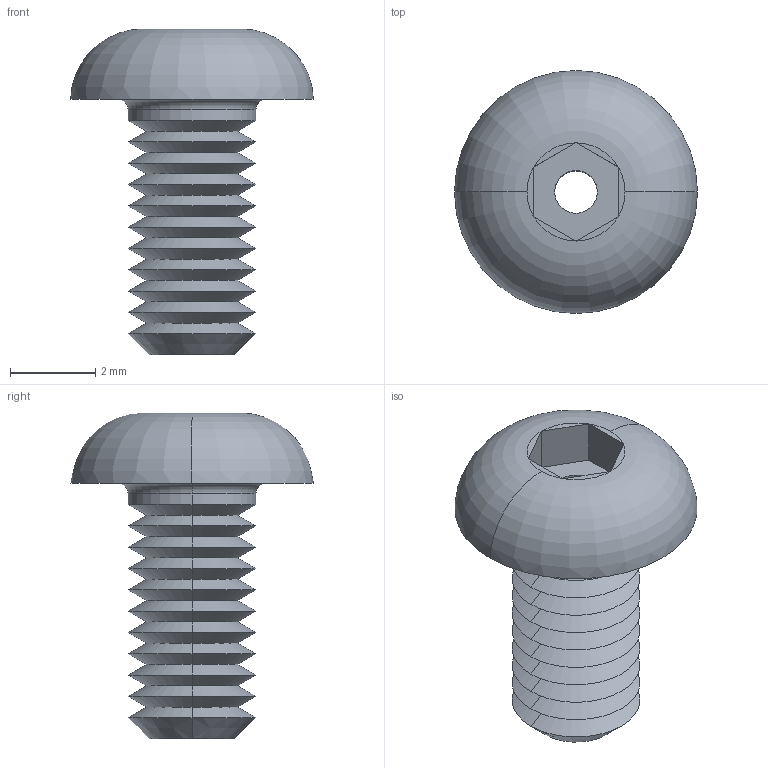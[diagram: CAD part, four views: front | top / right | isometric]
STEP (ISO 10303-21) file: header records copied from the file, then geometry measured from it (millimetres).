
FILE_DESCRIPTION (( 'STEP AP203' ), '1' );
FILE_NAME ('P0094.030-006-A2.step', '2019-07-12T16:51:05', ( '' ), ( '' ), 'SwSTEP 2.0', 'SolidWorks 2017', '' );
FILE_SCHEMA (( 'CONFIG_CONTROL_DESIGN' ));
Length unit declared in the file: millimetre
Products named in the file (1): P0094.030-006-A2
Bounding box: 5.7 x 5.7 x 7.65 mm (x, y, z)
Volume: 56 mm3; surface area: 178.6 mm2
Topology: 1 solids, 1 shells, 65 faces, 142 edges, 80 vertices
Faces by surface type: cone 42, plane 15, cylinder 4, torus 4
Entity records: 1839 total; most frequent: DIRECTION 334, CARTESIAN_POINT 308, ORIENTED_EDGE 284, EDGE_CURVE 142, AXIS2_PLACEMENT_3D 132, VERTEX_POINT 80, LINE 70, VECTOR 70
